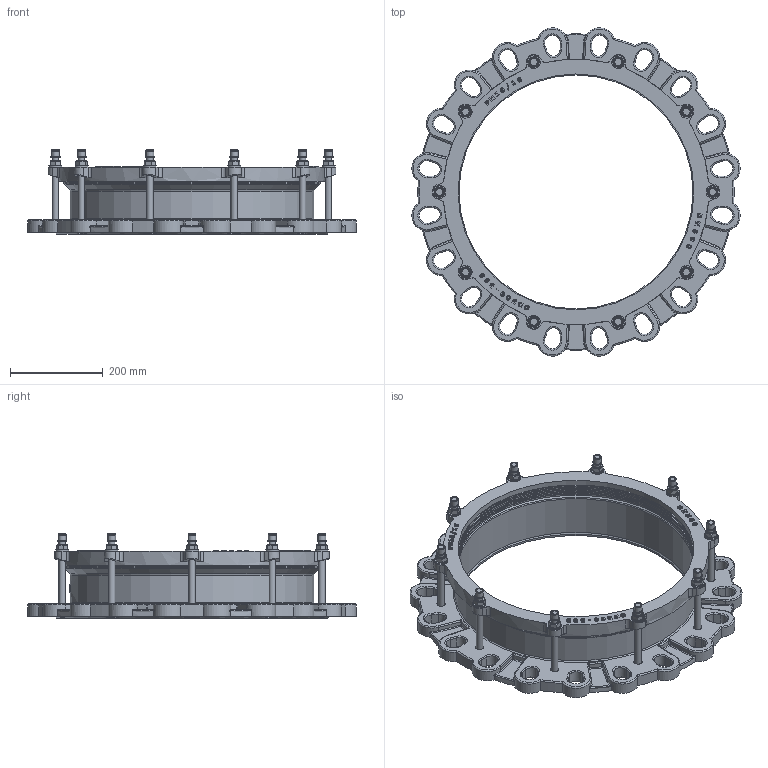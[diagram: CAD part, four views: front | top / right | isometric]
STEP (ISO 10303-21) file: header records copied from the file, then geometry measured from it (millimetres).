
FILE_DESCRIPTION(('STEP AP203'), '1');
FILE_NAME('Ôëàíöåâûé àäàïòåð', '', ('UNSPECIFIED'), ('UNSPECIFIED'), 'C3D Converter', 'C3D Toolkit', '');
FILE_SCHEMA(('CONFIG_CONTROL_DESIGN'));
Length unit declared in the file: millimetre
Assembly tree (43 placements, depth 2):
  (unnamed)
    (unnamed)
    (unnamed)  x10
    (unnamed)  x10
    (unnamed)  x10
    (unnamed)  x10
    (unnamed)
    (unnamed)
Bounding box: 706.91 x 706.91 x 181.4 mm (x, y, z)
Volume: 7334970.6 mm3; surface area: 1364479.2 mm2
Topology: 43 solids, 43 shells, 1898 faces, 4829 edges, 2925 vertices
Faces by surface type: plane 549, cylinder 537, extrusion 388, torus 181, bspline 100, cone 83, sphere 60
Full cylindrical faces by diameter (mm): 14 x30, 15 x10, 16 x20, 16.173 x1, 16.8 x10, 19.6 x10, 28 x10, 504 x5, 506 x3, 508 x2, 516 x1, 524 x2, 552 x1, 556 x2, 572 x1
Entity records: 70507 total; most frequent: CARTESIAN_POINT 29481, ORIENTED_EDGE 7776, DIRECTION 6467, EDGE_CURVE 3888, VERTEX_POINT 2447, AXIS2_PLACEMENT_3D 2280, VECTOR 1907, EDGE_LOOP 1729
